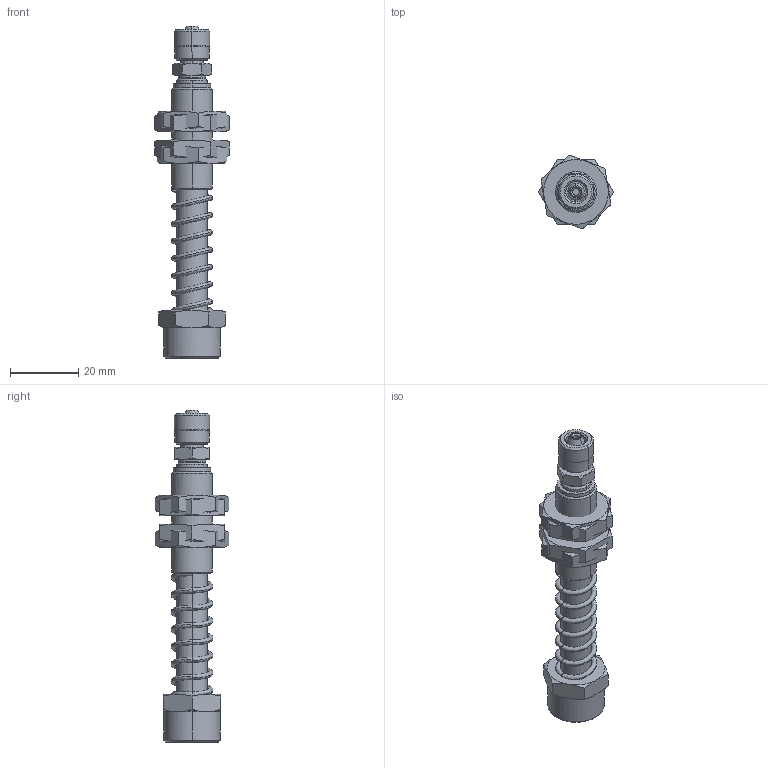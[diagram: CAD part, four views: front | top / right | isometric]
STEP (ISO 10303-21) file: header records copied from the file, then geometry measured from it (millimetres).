
FILE_DESCRIPTION (( 'STEP AP214' ), '1' );
FILE_NAME ('201048.STEP', '2024-09-30T12:52:00', ( '' ), ( '' ), 'SwSTEP 2.0', 'SolidWorks 2018', '' );
FILE_SCHEMA (( 'AUTOMOTIVE_DESIGN' ));
Length unit declared in the file: millimetre
Products named in the file (1): 201048
Bounding box: 21.94 x 21.64 x 97.5 mm (x, y, z)
Volume: 12369.2 mm3; surface area: 11481.2 mm2
Topology: 8 solids, 10 shells, 292 faces, 669 edges, 419 vertices
Faces by surface type: bspline 118, plane 80, cylinder 70, cone 24
Entity records: 13253 total; most frequent: CARTESIAN_POINT 7219, ORIENTED_EDGE 1338, DIRECTION 1064, EDGE_CURVE 669, AXIS2_PLACEMENT_3D 453, VERTEX_POINT 419, EDGE_LOOP 328, ADVANCED_FACE 292
